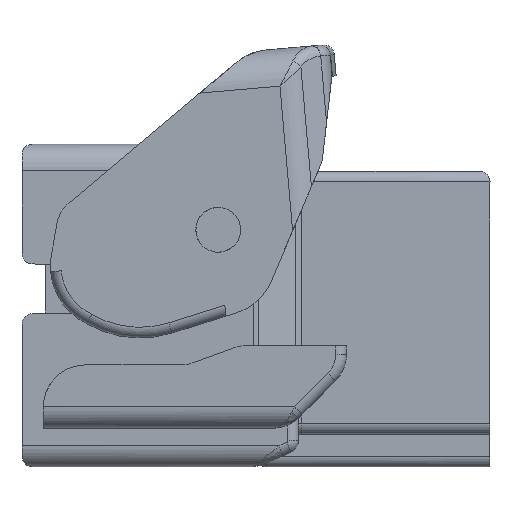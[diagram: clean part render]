
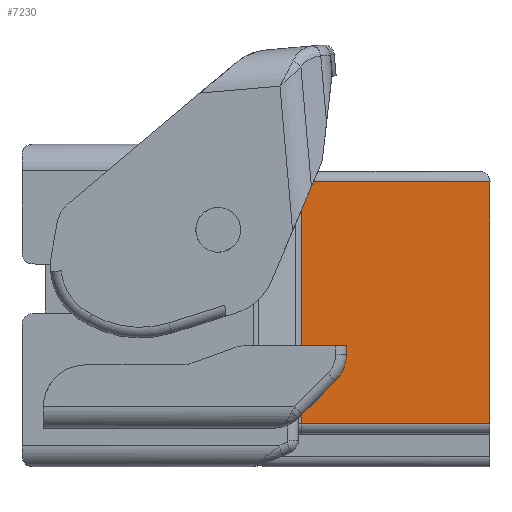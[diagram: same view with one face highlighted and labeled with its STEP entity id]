
A CAD part, front view. The second image highlights one B-rep face of the part: STEP entity #7230.
In plain terms, the highlighted planar face has unit normal (0, -1, 0).
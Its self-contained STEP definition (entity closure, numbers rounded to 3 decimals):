
#7172=AXIS2_PLACEMENT_3D('Plane Axis2P3D',#7169,#7170,#7171) ;
#7209=AXIS2_PLACEMENT_3D('Circle Axis2P3D',#7207,#7208,$) ;
#5903=CARTESIAN_POINT('Vertex',(4.27,-4.25,-11.25)) ;
#5906=CARTESIAN_POINT('Line Origine',(4.27,-4.25,-7.7)) ;
#5910=CARTESIAN_POINT('Vertex',(4.27,-4.25,4.15)) ;
#6033=CARTESIAN_POINT('Vertex',(22.,-4.25,4.15)) ;
#6036=CARTESIAN_POINT('Line Origine',(22.,-4.25,-7.2)) ;
#6040=CARTESIAN_POINT('Vertex',(22.,-4.25,-18.55)) ;
#7169=CARTESIAN_POINT('Axis2P3D Location',(4.,-4.25,4.15)) ;
#7174=CARTESIAN_POINT('Line Origine',(4.27,-4.25,-18.151)) ;
#7178=CARTESIAN_POINT('Vertex',(4.27,-4.25,-17.751)) ;
#7180=CARTESIAN_POINT('Vertex',(4.27,-4.25,-18.55)) ;
#7183=CARTESIAN_POINT('Line Origine',(13.135,-4.25,-18.55)) ;
#7188=CARTESIAN_POINT('Line Origine',(13.135,-4.25,4.15)) ;
#7193=CARTESIAN_POINT('Line Origine',(6.385,-4.25,-11.25)) ;
#7197=CARTESIAN_POINT('Vertex',(8.5,-4.25,-11.25)) ;
#7200=CARTESIAN_POINT('Line Origine',(8.5,-4.25,-11.661)) ;
#7204=CARTESIAN_POINT('Vertex',(8.5,-4.25,-12.072)) ;
#7207=CARTESIAN_POINT('Axis2P3D Location',(5.,-4.25,-12.072)) ;
#7211=CARTESIAN_POINT('Vertex',(7.475,-4.25,-14.546)) ;
#7214=CARTESIAN_POINT('Line Origine',(5.872,-4.25,-16.149)) ;
#5907=DIRECTION('Vector Direction',(0.,0.,-1.)) ;
#6037=DIRECTION('Vector Direction',(0.,0.,-1.)) ;
#7170=DIRECTION('Axis2P3D Direction',(0.,-1.,0.)) ;
#7171=DIRECTION('Axis2P3D XDirection',(0.,0.,-1.)) ;
#7175=DIRECTION('Vector Direction',(0.,0.,-1.)) ;
#7184=DIRECTION('Vector Direction',(1.,0.,0.)) ;
#7189=DIRECTION('Vector Direction',(1.,0.,0.)) ;
#7194=DIRECTION('Vector Direction',(-1.,0.,0.)) ;
#7201=DIRECTION('Vector Direction',(0.,0.,-1.)) ;
#7208=DIRECTION('Axis2P3D Direction',(0.,-1.,0.)) ;
#7215=DIRECTION('Vector Direction',(-0.707,0.,-0.707)) ;
#5908=VECTOR('Line Direction',#5907,1.) ;
#6038=VECTOR('Line Direction',#6037,1.) ;
#7176=VECTOR('Line Direction',#7175,1.) ;
#7185=VECTOR('Line Direction',#7184,1.) ;
#7190=VECTOR('Line Direction',#7189,1.) ;
#7195=VECTOR('Line Direction',#7194,1.) ;
#7202=VECTOR('Line Direction',#7201,1.) ;
#7216=VECTOR('Line Direction',#7215,1.) ;
#7220=ORIENTED_EDGE('',*,*,#7182,.T.) ;
#7221=ORIENTED_EDGE('',*,*,#7187,.T.) ;
#7222=ORIENTED_EDGE('',*,*,#6042,.F.) ;
#7223=ORIENTED_EDGE('',*,*,#7192,.F.) ;
#7224=ORIENTED_EDGE('',*,*,#5912,.T.) ;
#7225=ORIENTED_EDGE('',*,*,#7199,.F.) ;
#7226=ORIENTED_EDGE('',*,*,#7206,.T.) ;
#7227=ORIENTED_EDGE('',*,*,#7213,.F.) ;
#7228=ORIENTED_EDGE('',*,*,#7218,.T.) ;
#7230=ADVANCED_FACE('HSG.',(#7229),#7173,.T.) ;
#7210=CIRCLE('generated circle',#7209,3.5) ;
#5912=EDGE_CURVE('',#5911,#5904,#5909,.T.) ;
#6042=EDGE_CURVE('',#6034,#6041,#6039,.T.) ;
#7182=EDGE_CURVE('',#7179,#7181,#7177,.T.) ;
#7187=EDGE_CURVE('',#7181,#6041,#7186,.T.) ;
#7192=EDGE_CURVE('',#5911,#6034,#7191,.T.) ;
#7199=EDGE_CURVE('',#7198,#5904,#7196,.T.) ;
#7206=EDGE_CURVE('',#7198,#7205,#7203,.T.) ;
#7213=EDGE_CURVE('',#7212,#7205,#7210,.T.) ;
#7218=EDGE_CURVE('',#7212,#7179,#7217,.T.) ;
#7219=EDGE_LOOP('',(#7220,#7221,#7222,#7223,#7224,#7225,#7226,#7227,#7228)) ;
#7229=FACE_OUTER_BOUND('',#7219,.T.) ;
#5909=LINE('Line',#5906,#5908) ;
#6039=LINE('Line',#6036,#6038) ;
#7177=LINE('Line',#7174,#7176) ;
#7186=LINE('Line',#7183,#7185) ;
#7191=LINE('Line',#7188,#7190) ;
#7196=LINE('Line',#7193,#7195) ;
#7203=LINE('Line',#7200,#7202) ;
#7217=LINE('Line',#7214,#7216) ;
#7173=PLANE('',#7172) ;
#5904=VERTEX_POINT('',#5903) ;
#5911=VERTEX_POINT('',#5910) ;
#6034=VERTEX_POINT('',#6033) ;
#6041=VERTEX_POINT('',#6040) ;
#7179=VERTEX_POINT('',#7178) ;
#7181=VERTEX_POINT('',#7180) ;
#7198=VERTEX_POINT('',#7197) ;
#7205=VERTEX_POINT('',#7204) ;
#7212=VERTEX_POINT('',#7211) ;
